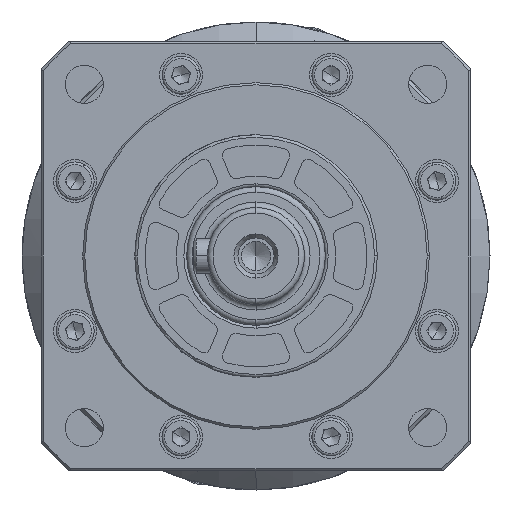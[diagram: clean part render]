
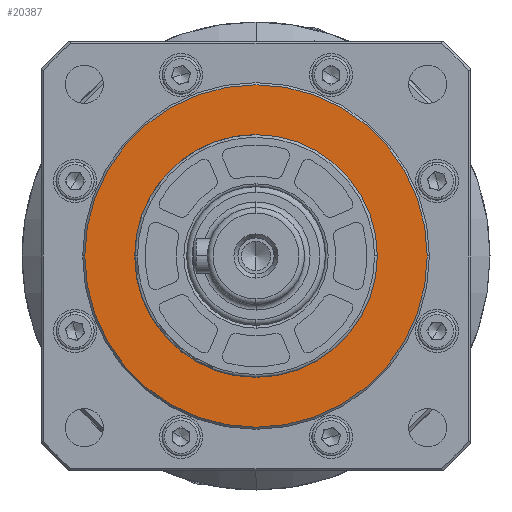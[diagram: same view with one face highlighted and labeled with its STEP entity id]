
A CAD part, left-side view. The second image highlights one B-rep face of the part: STEP entity #20387.
In plain terms, the highlighted planar face has unit normal (-1, 0, 0).
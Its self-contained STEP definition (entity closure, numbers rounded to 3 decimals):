
#630 = PLANE ( 'NONE',  #2285 ) ;
#734 = CARTESIAN_POINT ( 'NONE',  ( 0., 0., 17.5 ) ) ;
#925 = DIRECTION ( 'NONE',  ( -1., 0., 0. ) ) ;
#2065 = EDGE_CURVE ( 'NONE', #39729, #5056, #9975, .T. ) ;
#2285 = AXIS2_PLACEMENT_3D ( 'NONE', #14158, #4842, #39236 ) ;
#4199 = AXIS2_PLACEMENT_3D ( 'NONE', #35800, #39009, #11044 ) ;
#4202 = EDGE_CURVE ( 'NONE', #5056, #39729, #17537, .T. ) ;
#4842 = DIRECTION ( 'NONE',  ( 1., 0., 0. ) ) ;
#5056 = VERTEX_POINT ( 'NONE', #36702 ) ;
#8107 = ORIENTED_EDGE ( 'NONE', *, *, #4202, .F. ) ;
#9975 = CIRCLE ( 'NONE', #4199, 24.7 ) ;
#10158 = EDGE_CURVE ( 'NONE', #29673, #22789, #27060, .T. ) ;
#10383 = DIRECTION ( 'NONE',  ( 0., 0., 1. ) ) ;
#11044 = DIRECTION ( 'NONE',  ( 0., 1., 0. ) ) ;
#11183 = AXIS2_PLACEMENT_3D ( 'NONE', #29947, #17536, #36117 ) ;
#12433 = CARTESIAN_POINT ( 'NONE',  ( 0., 0., 0. ) ) ;
#12853 = CARTESIAN_POINT ( 'NONE',  ( 0., 0., -17.5 ) ) ;
#14158 = CARTESIAN_POINT ( 'NONE',  ( 0., 17.5, 0. ) ) ;
#17536 = DIRECTION ( 'NONE',  ( 1., 0., 0. ) ) ;
#17537 = CIRCLE ( 'NONE', #11183, 24.7 ) ;
#17776 = FACE_BOUND ( 'NONE', #22053, .T. ) ;
#19320 = EDGE_LOOP ( 'NONE', ( #8107, #34057 ) ) ;
#20387 = ADVANCED_FACE ( 'NONE', ( #34373, #17776 ), #630, .F. ) ;
#22053 = EDGE_LOOP ( 'NONE', ( #36705, #33783 ) ) ;
#22673 = CARTESIAN_POINT ( 'NONE',  ( 0., 0., 0. ) ) ;
#22789 = VERTEX_POINT ( 'NONE', #734 ) ;
#24103 = CARTESIAN_POINT ( 'NONE',  ( 0., -24.7, 0. ) ) ;
#27060 = CIRCLE ( 'NONE', #37495, 17.5 ) ;
#28971 = DIRECTION ( 'NONE',  ( -1., 0., 0. ) ) ;
#29673 = VERTEX_POINT ( 'NONE', #12853 ) ;
#29947 = CARTESIAN_POINT ( 'NONE',  ( 0., 0., 0. ) ) ;
#30550 = CIRCLE ( 'NONE', #36323, 17.5 ) ;
#31122 = DIRECTION ( 'NONE',  ( 0., 0., 1. ) ) ;
#32959 = EDGE_CURVE ( 'NONE', #22789, #29673, #30550, .T. ) ;
#33783 = ORIENTED_EDGE ( 'NONE', *, *, #10158, .F. ) ;
#34057 = ORIENTED_EDGE ( 'NONE', *, *, #2065, .F. ) ;
#34373 = FACE_OUTER_BOUND ( 'NONE', #19320, .T. ) ;
#35800 = CARTESIAN_POINT ( 'NONE',  ( 0., 0., 0. ) ) ;
#36117 = DIRECTION ( 'NONE',  ( 0., 1., 0. ) ) ;
#36323 = AXIS2_PLACEMENT_3D ( 'NONE', #12433, #925, #31122 ) ;
#36702 = CARTESIAN_POINT ( 'NONE',  ( 0., 24.7, 0. ) ) ;
#36705 = ORIENTED_EDGE ( 'NONE', *, *, #32959, .F. ) ;
#37495 = AXIS2_PLACEMENT_3D ( 'NONE', #22673, #28971, #10383 ) ;
#39009 = DIRECTION ( 'NONE',  ( 1., 0., 0. ) ) ;
#39236 = DIRECTION ( 'NONE',  ( 0., 0., -1. ) ) ;
#39729 = VERTEX_POINT ( 'NONE', #24103 ) ;
